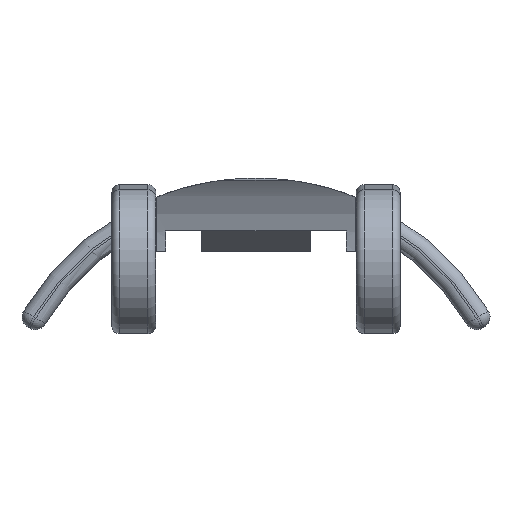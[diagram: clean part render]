
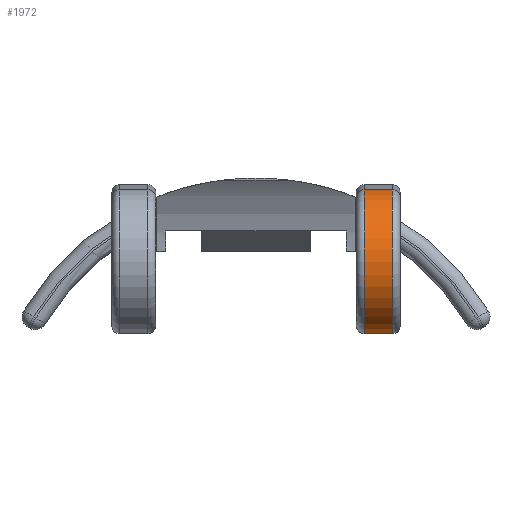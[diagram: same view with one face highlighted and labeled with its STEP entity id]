
A CAD part, left-side view. The second image highlights one B-rep face of the part: STEP entity #1972.
In plain terms, the highlighted cylindrical face has radius 5.6 mm (diameter 11.2 mm), a partial arc.
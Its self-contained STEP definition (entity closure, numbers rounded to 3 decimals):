
#192 = TOROIDAL_SURFACE('',#193,5.,0.6);
#193 = AXIS2_PLACEMENT_3D('',#194,#195,#196);
#194 = CARTESIAN_POINT('',(0.,-10.6,0.)
  );
#195 = DIRECTION('',(0.,-1.,0.));
#196 = DIRECTION('',(-0.036,0.,
    0.999));
#292 = VERTEX_POINT('',#293);
#293 = CARTESIAN_POINT('',(-0.203,-10.6,5.596));
#327 = PLANE('',#328);
#328 = AXIS2_PLACEMENT_3D('',#329,#330,#331);
#329 = CARTESIAN_POINT('',(10.891,-11.2,5.998));
#330 = DIRECTION('',(-0.036,0.,0.999));
#331 = DIRECTION('',(-0.999,0.,-0.036));
#841 = EDGE_CURVE('',#292,#842,#844,.T.);
#842 = VERTEX_POINT('',#843);
#843 = CARTESIAN_POINT('',(2.667,-10.6,-4.924));
#844 = SURFACE_CURVE('',#845,(#850,#857),.PCURVE_S1.);
#845 = CIRCLE('',#846,5.6);
#846 = AXIS2_PLACEMENT_3D('',#847,#848,#849);
#847 = CARTESIAN_POINT('',(0.,-10.6,0.)
  );
#848 = DIRECTION('',(0.,-1.,0.));
#849 = DIRECTION('',(-0.036,0.,
    0.999));
#850 = PCURVE('',#192,#851);
#851 = DEFINITIONAL_REPRESENTATION('',(#852),#856);
#852 = LINE('',#853,#854);
#853 = CARTESIAN_POINT('',(0.,0.));
#854 = VECTOR('',#855,1.);
#855 = DIRECTION('',(1.,0.));
#856 = ( GEOMETRIC_REPRESENTATION_CONTEXT(2) 
PARAMETRIC_REPRESENTATION_CONTEXT() REPRESENTATION_CONTEXT('2D SPACE',''
  ) );
#857 = PCURVE('',#858,#863);
#858 = CYLINDRICAL_SURFACE('',#859,5.6);
#859 = AXIS2_PLACEMENT_3D('',#860,#861,#862);
#860 = CARTESIAN_POINT('',(0.,-11.2,0.)
  );
#861 = DIRECTION('',(0.,-1.,-0.));
#862 = DIRECTION('',(-0.036,-0.,0.999));
#863 = DEFINITIONAL_REPRESENTATION('',(#864),#868);
#864 = LINE('',#865,#866);
#865 = CARTESIAN_POINT('',(0.,-0.6));
#866 = VECTOR('',#867,1.);
#867 = DIRECTION('',(1.,0.));
#868 = ( GEOMETRIC_REPRESENTATION_CONTEXT(2) 
PARAMETRIC_REPRESENTATION_CONTEXT() REPRESENTATION_CONTEXT('2D SPACE',''
  ) );
#958 = PLANE('',#959);
#959 = AXIS2_PLACEMENT_3D('',#960,#961,#962);
#960 = CARTESIAN_POINT('',(2.667,-11.2,-4.924));
#961 = DIRECTION('',(0.476,0.,-0.879));
#962 = DIRECTION('',(0.879,0.,0.476));
#1684 = VERTEX_POINT('',#1685);
#1685 = CARTESIAN_POINT('',(-0.203,-8.4,5.596));
#1711 = EDGE_CURVE('',#292,#1684,#1712,.T.);
#1712 = SURFACE_CURVE('',#1713,(#1717,#1724),.PCURVE_S1.);
#1713 = LINE('',#1714,#1715);
#1714 = CARTESIAN_POINT('',(-0.203,-11.2,5.596));
#1715 = VECTOR('',#1716,1.);
#1716 = DIRECTION('',(0.,1.,0.));
#1717 = PCURVE('',#327,#1718);
#1718 = DEFINITIONAL_REPRESENTATION('',(#1719),#1723);
#1719 = LINE('',#1720,#1721);
#1720 = CARTESIAN_POINT('',(11.101,0.));
#1721 = VECTOR('',#1722,1.);
#1722 = DIRECTION('',(0.,-1.));
#1723 = ( GEOMETRIC_REPRESENTATION_CONTEXT(2) 
PARAMETRIC_REPRESENTATION_CONTEXT() REPRESENTATION_CONTEXT('2D SPACE',''
  ) );
#1724 = PCURVE('',#858,#1725);
#1725 = DEFINITIONAL_REPRESENTATION('',(#1726),#1730);
#1726 = LINE('',#1727,#1728);
#1727 = CARTESIAN_POINT('',(0.,0.));
#1728 = VECTOR('',#1729,1.);
#1729 = DIRECTION('',(0.,-1.));
#1730 = ( GEOMETRIC_REPRESENTATION_CONTEXT(2) 
PARAMETRIC_REPRESENTATION_CONTEXT() REPRESENTATION_CONTEXT('2D SPACE',''
  ) );
#1972 = ADVANCED_FACE('',(#1973),#858,.T.);
#1973 = FACE_BOUND('',#1974,.T.);
#1974 = EDGE_LOOP('',(#1975,#1976,#2005,#2026));
#1975 = ORIENTED_EDGE('',*,*,#1711,.T.);
#1976 = ORIENTED_EDGE('',*,*,#1977,.T.);
#1977 = EDGE_CURVE('',#1684,#1978,#1980,.T.);
#1978 = VERTEX_POINT('',#1979);
#1979 = CARTESIAN_POINT('',(2.667,-8.4,-4.924));
#1980 = SURFACE_CURVE('',#1981,(#1986,#1993),.PCURVE_S1.);
#1981 = CIRCLE('',#1982,5.6);
#1982 = AXIS2_PLACEMENT_3D('',#1983,#1984,#1985);
#1983 = CARTESIAN_POINT('',(0.,-8.4,0.)
  );
#1984 = DIRECTION('',(0.,-1.,0.));
#1985 = DIRECTION('',(-0.036,0.,
    0.999));
#1986 = PCURVE('',#858,#1987);
#1987 = DEFINITIONAL_REPRESENTATION('',(#1988),#1992);
#1988 = LINE('',#1989,#1990);
#1989 = CARTESIAN_POINT('',(0.,-2.8));
#1990 = VECTOR('',#1991,1.);
#1991 = DIRECTION('',(1.,0.));
#1992 = ( GEOMETRIC_REPRESENTATION_CONTEXT(2) 
PARAMETRIC_REPRESENTATION_CONTEXT() REPRESENTATION_CONTEXT('2D SPACE',''
  ) );
#1993 = PCURVE('',#1994,#1999);
#1994 = TOROIDAL_SURFACE('',#1995,5.,0.6);
#1995 = AXIS2_PLACEMENT_3D('',#1996,#1997,#1998);
#1996 = CARTESIAN_POINT('',(0.,-8.4,0.)
  );
#1997 = DIRECTION('',(-0.,1.,0.));
#1998 = DIRECTION('',(-0.036,0.,
    0.999));
#1999 = DEFINITIONAL_REPRESENTATION('',(#2000),#2004);
#2000 = LINE('',#2001,#2002);
#2001 = CARTESIAN_POINT('',(-0.,0.));
#2002 = VECTOR('',#2003,1.);
#2003 = DIRECTION('',(-1.,0.));
#2004 = ( GEOMETRIC_REPRESENTATION_CONTEXT(2) 
PARAMETRIC_REPRESENTATION_CONTEXT() REPRESENTATION_CONTEXT('2D SPACE',''
  ) );
#2005 = ORIENTED_EDGE('',*,*,#2006,.F.);
#2006 = EDGE_CURVE('',#842,#1978,#2007,.T.);
#2007 = SURFACE_CURVE('',#2008,(#2012,#2019),.PCURVE_S1.);
#2008 = LINE('',#2009,#2010);
#2009 = CARTESIAN_POINT('',(2.667,-11.2,-4.924));
#2010 = VECTOR('',#2011,1.);
#2011 = DIRECTION('',(0.,1.,0.));
#2012 = PCURVE('',#858,#2013);
#2013 = DEFINITIONAL_REPRESENTATION('',(#2014),#2018);
#2014 = LINE('',#2015,#2016);
#2015 = CARTESIAN_POINT('',(3.602,0.));
#2016 = VECTOR('',#2017,1.);
#2017 = DIRECTION('',(0.,-1.));
#2018 = ( GEOMETRIC_REPRESENTATION_CONTEXT(2) 
PARAMETRIC_REPRESENTATION_CONTEXT() REPRESENTATION_CONTEXT('2D SPACE',''
  ) );
#2019 = PCURVE('',#958,#2020);
#2020 = DEFINITIONAL_REPRESENTATION('',(#2021),#2025);
#2021 = LINE('',#2022,#2023);
#2022 = CARTESIAN_POINT('',(0.,0.));
#2023 = VECTOR('',#2024,1.);
#2024 = DIRECTION('',(0.,-1.));
#2025 = ( GEOMETRIC_REPRESENTATION_CONTEXT(2) 
PARAMETRIC_REPRESENTATION_CONTEXT() REPRESENTATION_CONTEXT('2D SPACE',''
  ) );
#2026 = ORIENTED_EDGE('',*,*,#841,.F.);
